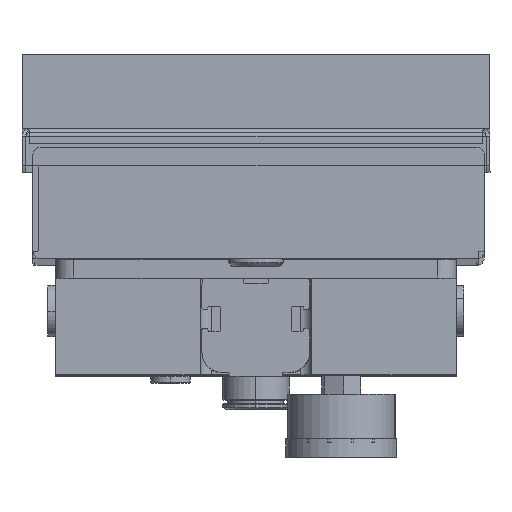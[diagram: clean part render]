
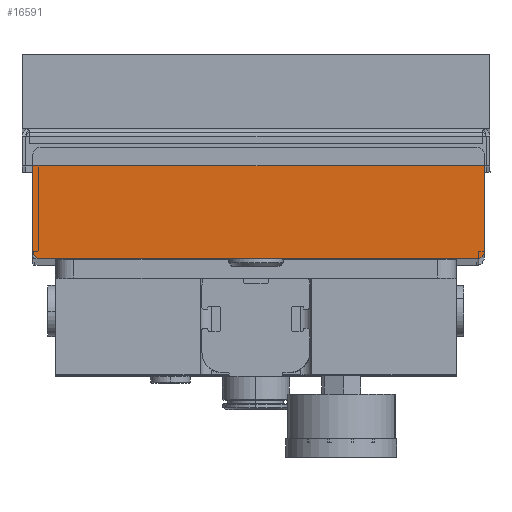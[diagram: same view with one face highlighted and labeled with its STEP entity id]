
A CAD part, top view. The second image highlights one B-rep face of the part: STEP entity #16591.
In plain terms, the highlighted planar face has unit normal (0, 0, 1).
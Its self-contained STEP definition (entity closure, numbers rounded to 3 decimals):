
#25 = EDGE_CURVE ( 'NONE', #18204, #18332, #12733, .T. ) ;
#32 = EDGE_CURVE ( 'NONE', #612, #486, #12724, .T. ) ;
#69 = EDGE_CURVE ( 'NONE', #550, #667, #12665, .T. ) ;
#164 = EDGE_CURVE ( 'NONE', #373, #667, #12550, .T. ) ;
#170 = EDGE_CURVE ( 'NONE', #612, #306, #12543, .T. ) ;
#173 = EDGE_CURVE ( 'NONE', #373, #18332, #12534, .T. ) ;
#175 = EDGE_CURVE ( 'NONE', #550, #486, #12535, .T. ) ;
#188 = EDGE_CURVE ( 'NONE', #18204, #306, #12512, .T. ) ;
#306 = VERTEX_POINT ( 'NONE', #8509 ) ;
#373 = VERTEX_POINT ( 'NONE', #14623 ) ;
#486 = VERTEX_POINT ( 'NONE', #14780 ) ;
#550 = VERTEX_POINT ( 'NONE', #14677 ) ;
#612 = VERTEX_POINT ( 'NONE', #14573 ) ;
#667 = VERTEX_POINT ( 'NONE', #14487 ) ;
#8509 = CARTESIAN_POINT ( 'NONE',  ( 34.487, 38.261, 496.67 ) ) ;
#9187 = DIRECTION ( 'NONE',  ( 1., 0., 0. ) ) ;
#9191 = DIRECTION ( 'NONE',  ( 0., 0., 1. ) ) ;
#9194 = CARTESIAN_POINT ( 'NONE',  ( 34.487, 36.261, 496.67 ) ) ;
#9304 = DIRECTION ( 'NONE',  ( 0., 1., 0. ) ) ;
#9305 = DIRECTION ( 'NONE',  ( 1., 0., 0. ) ) ;
#9307 = DIRECTION ( 'NONE',  ( 0., 0., 1. ) ) ;
#9309 = CARTESIAN_POINT ( 'NONE',  ( 34.487, 10.261, 496.67 ) ) ;
#9313 = CARTESIAN_POINT ( 'NONE',  ( -85.013, 8.261, 496.67 ) ) ;
#9341 = DIRECTION ( 'NONE',  ( 1., 0., 0. ) ) ;
#9361 = CARTESIAN_POINT ( 'NONE',  ( 36.487, 38.261, 496.67 ) ) ;
#9371 = DIRECTION ( 'NONE',  ( -1., 0., 0. ) ) ;
#9376 = CARTESIAN_POINT ( 'NONE',  ( 36.487, 8.261, 496.67 ) ) ;
#9662 = AXIS2_PLACEMENT_3D ( 'NONE', #23736, #23737, #23738 ) ;
#12512 = CIRCLE ( 'NONE', #18935, 2. ) ;
#12529 = VECTOR ( 'NONE', #9304, 1000. ) ;
#12534 = CIRCLE ( 'NONE', #18947, 2. ) ;
#12535 = LINE ( 'NONE', #9313, #12529 ) ;
#12536 = VECTOR ( 'NONE', #9341, 1000. ) ;
#12543 = LINE ( 'NONE', #9361, #12536 ) ;
#12547 = VECTOR ( 'NONE', #9371, 1000. ) ;
#12550 = LINE ( 'NONE', #9376, #12547 ) ;
#12665 = CIRCLE ( 'NONE', #19068, 2. ) ;
#12724 = CIRCLE ( 'NONE', #19082, 2. ) ;
#12730 = VECTOR ( 'NONE', #17406, 1000. ) ;
#12733 = LINE ( 'NONE', #17335, #12730 ) ;
#13756 = CARTESIAN_POINT ( 'NONE',  ( 36.487, 36.261, 496.67 ) ) ;
#13817 = CARTESIAN_POINT ( 'NONE',  ( 36.487, 10.261, 496.67 ) ) ;
#14487 = CARTESIAN_POINT ( 'NONE',  ( -83.013, 8.261, 496.67 ) ) ;
#14573 = CARTESIAN_POINT ( 'NONE',  ( -83.013, 38.261, 496.67 ) ) ;
#14623 = CARTESIAN_POINT ( 'NONE',  ( 34.487, 8.261, 496.67 ) ) ;
#14677 = CARTESIAN_POINT ( 'NONE',  ( -85.013, 10.261, 496.67 ) ) ;
#14780 = CARTESIAN_POINT ( 'NONE',  ( -85.013, 36.261, 496.67 ) ) ;
#16591 = ADVANCED_FACE ( 'NONE', ( #22334 ), #23717, .T. ) ;
#17222 = DIRECTION ( 'NONE',  ( 1., 0., 0. ) ) ;
#17223 = DIRECTION ( 'NONE',  ( 0., 0., 1. ) ) ;
#17224 = CARTESIAN_POINT ( 'NONE',  ( -83.013, 10.261, 496.67 ) ) ;
#17311 = DIRECTION ( 'NONE',  ( 1., 0., 0. ) ) ;
#17312 = DIRECTION ( 'NONE',  ( 0., 0., 1. ) ) ;
#17313 = CARTESIAN_POINT ( 'NONE',  ( -83.013, 36.261, 496.67 ) ) ;
#17335 = CARTESIAN_POINT ( 'NONE',  ( 36.487, 8.261, 496.67 ) ) ;
#17406 = DIRECTION ( 'NONE',  ( 0., -1., 0. ) ) ;
#17458 = ORIENTED_EDGE ( 'NONE', *, *, #188, .T. ) ;
#17494 = ORIENTED_EDGE ( 'NONE', *, *, #173, .T. ) ;
#17594 = ORIENTED_EDGE ( 'NONE', *, *, #25, .F. ) ;
#17849 = ORIENTED_EDGE ( 'NONE', *, *, #69, .T. ) ;
#17853 = ORIENTED_EDGE ( 'NONE', *, *, #164, .F. ) ;
#17855 = ORIENTED_EDGE ( 'NONE', *, *, #175, .F. ) ;
#18149 = ORIENTED_EDGE ( 'NONE', *, *, #32, .T. ) ;
#18204 = VERTEX_POINT ( 'NONE', #13756 ) ;
#18258 = ORIENTED_EDGE ( 'NONE', *, *, #170, .F. ) ;
#18332 = VERTEX_POINT ( 'NONE', #13817 ) ;
#18935 = AXIS2_PLACEMENT_3D ( 'NONE', #9194, #9191, #9187 ) ;
#18947 = AXIS2_PLACEMENT_3D ( 'NONE', #9309, #9307, #9305 ) ;
#19068 = AXIS2_PLACEMENT_3D ( 'NONE', #17224, #17223, #17222 ) ;
#19082 = AXIS2_PLACEMENT_3D ( 'NONE', #17313, #17312, #17311 ) ;
#22334 = FACE_OUTER_BOUND ( 'NONE', #27800, .T. ) ;
#23717 = PLANE ( 'NONE',  #9662 ) ;
#23736 = CARTESIAN_POINT ( 'NONE',  ( 36.487, 38.261, 496.67 ) ) ;
#23737 = DIRECTION ( 'NONE',  ( 0., 0., 1. ) ) ;
#23738 = DIRECTION ( 'NONE',  ( 1., 0., 0. ) ) ;
#27800 = EDGE_LOOP ( 'NONE', ( #18258, #18149, #17855, #17849, #17853, #17494, #17594, #17458 ) ) ;
